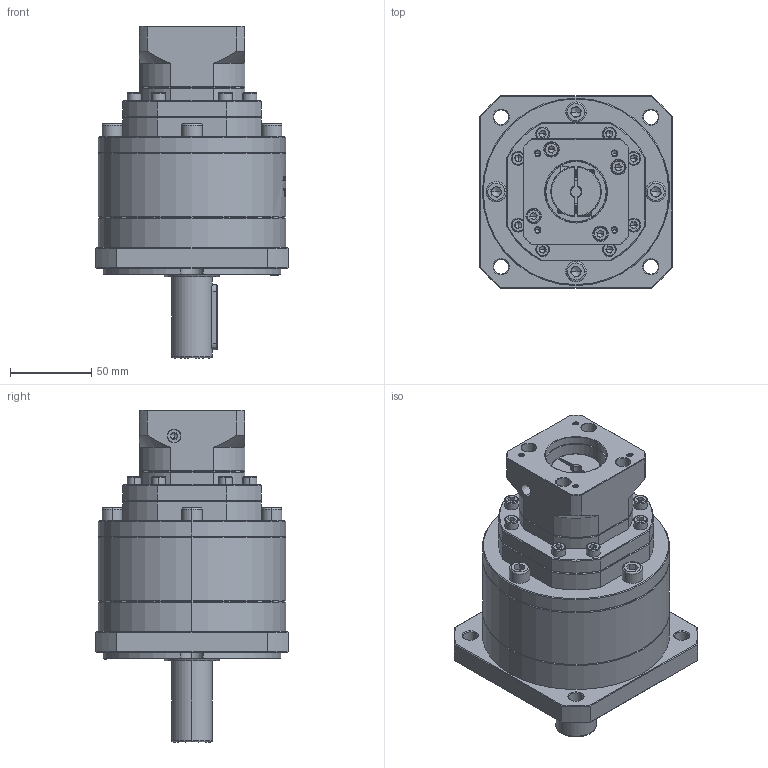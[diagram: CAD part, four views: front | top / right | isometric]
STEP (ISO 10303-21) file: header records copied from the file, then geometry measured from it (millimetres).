
FILE_DESCRIPTION (( 'STEP AP214' ), '1' );
FILE_NAME ('ZF120A-D25-L3-6.35-38.1-47.14X47.14-M4.step', '2023-03-07T15:55:02', ( '' ), ( 'Microsoft' ), 'SwSTEP 2.0', 'SolidWorks 2016', '' );
FILE_SCHEMA (( 'AUTOMOTIVE_DESIGN' ));
Length unit declared in the file: millimetre
Products named in the file (1): ZF120A-D25-L3-6.35-38.1-47.14X47.14-M4
Bounding box: 118 x 118 x 204 mm (x, y, z)
Volume: 1215200.7 mm3; surface area: 115543.6 mm2
Topology: 7 solids, 7 shells, 2073 faces, 5451 edges, 3481 vertices
Faces by surface type: plane 1002, cylinder 411, bspline 337, cone 301, torus 22
Entity records: 106809 total; most frequent: CARTESIAN_POINT 36592, ORIENTED_EDGE 10794, DIRECTION 8547, EDGE_CURVE 5397, VERTEX_POINT 3481, LINE 2963, VECTOR 2963, AXIS2_PLACEMENT_3D 2792
